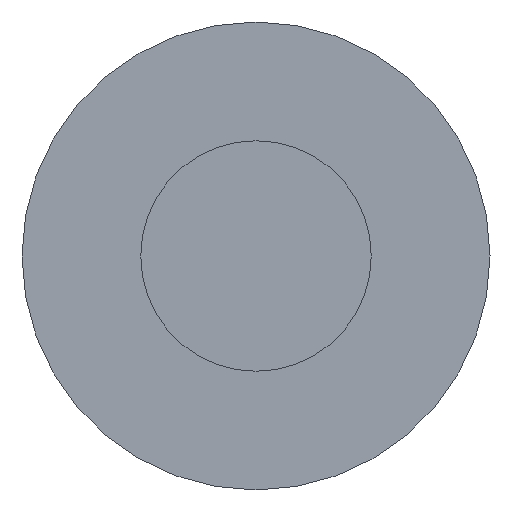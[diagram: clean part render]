
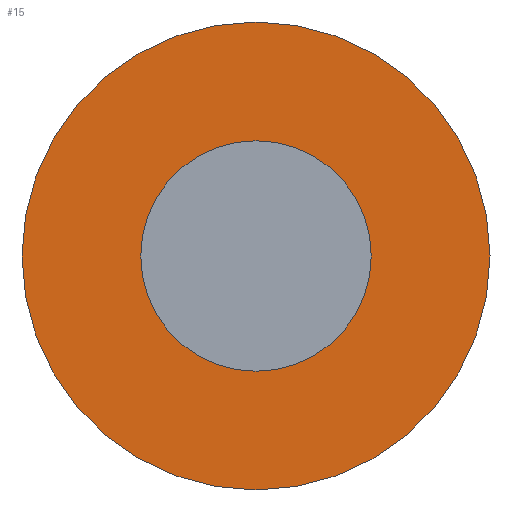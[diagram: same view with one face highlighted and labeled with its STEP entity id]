
A CAD part, front view. The second image highlights one B-rep face of the part: STEP entity #15.
In plain terms, the highlighted planar face has unit normal (0, -1, 0).
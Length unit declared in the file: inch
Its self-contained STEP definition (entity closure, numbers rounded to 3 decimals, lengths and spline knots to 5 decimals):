
#15 = ADVANCED_FACE ( 'NONE', ( #433, #436 ), #49, .F. ) ;
#24 = DIRECTION ( 'NONE',  ( 0., 0., 1. ) ) ;
#32 = CARTESIAN_POINT ( 'NONE',  ( 0., 0.38, 1.98297 ) ) ;
#49 = PLANE ( 'NONE',  #260 ) ;
#90 = DIRECTION ( 'NONE',  ( 0., 1., 0. ) ) ;
#141 = CARTESIAN_POINT ( 'NONE',  ( 0., 0.38, 1.98297 ) ) ;
#142 = DIRECTION ( 'NONE',  ( 0., 1., 0. ) ) ;
#143 = DIRECTION ( 'NONE',  ( 0., 0., 1. ) ) ;
#151 = CARTESIAN_POINT ( 'NONE',  ( 0., 0.38, 1.98297 ) ) ;
#152 = DIRECTION ( 'NONE',  ( 0., 1., 0. ) ) ;
#153 = DIRECTION ( 'NONE',  ( 0., 0., 1. ) ) ;
#163 = CARTESIAN_POINT ( 'NONE',  ( 0., 0.38, 1.98297 ) ) ;
#164 = DIRECTION ( 'NONE',  ( 0., 1., 0. ) ) ;
#165 = DIRECTION ( 'NONE',  ( 0., 0., 1. ) ) ;
#169 = CARTESIAN_POINT ( 'NONE',  ( 0., 0.38, 1.98297 ) ) ;
#170 = DIRECTION ( 'NONE',  ( 0., 1., 0. ) ) ;
#171 = DIRECTION ( 'NONE',  ( 0., 0., 1. ) ) ;
#184 = CARTESIAN_POINT ( 'NONE',  ( 0., 0.38, 1.94847 ) ) ;
#189 = CARTESIAN_POINT ( 'NONE',  ( 0., 0.38, 2.01747 ) ) ;
#194 = CARTESIAN_POINT ( 'NONE',  ( 0., 0.38, 2.05301 ) ) ;
#198 = CARTESIAN_POINT ( 'NONE',  ( 0., 0.38, 1.91293 ) ) ;
#237 = AXIS2_PLACEMENT_3D ( 'NONE', #169, #170, #171 ) ;
#239 = AXIS2_PLACEMENT_3D ( 'NONE', #163, #164, #165 ) ;
#243 = AXIS2_PLACEMENT_3D ( 'NONE', #151, #152, #153 ) ;
#245 = AXIS2_PLACEMENT_3D ( 'NONE', #141, #142, #143 ) ;
#260 = AXIS2_PLACEMENT_3D ( 'NONE', #32, #90, #24 ) ;
#286 = EDGE_CURVE ( 'NONE', #334, #331, #458, .T. ) ;
#290 = EDGE_CURVE ( 'NONE', #330, #329, #466, .T. ) ;
#295 = EDGE_CURVE ( 'NONE', #329, #330, #473, .T. ) ;
#297 = EDGE_CURVE ( 'NONE', #331, #334, #475, .T. ) ;
#311 = EDGE_LOOP ( 'NONE', ( #368, #367 ) ) ;
#327 = EDGE_LOOP ( 'NONE', ( #370, #369 ) ) ;
#329 = VERTEX_POINT ( 'NONE', #184 ) ;
#330 = VERTEX_POINT ( 'NONE', #189 ) ;
#331 = VERTEX_POINT ( 'NONE', #198 ) ;
#334 = VERTEX_POINT ( 'NONE', #194 ) ;
#367 = ORIENTED_EDGE ( 'NONE', *, *, #286, .F. ) ;
#368 = ORIENTED_EDGE ( 'NONE', *, *, #297, .F. ) ;
#369 = ORIENTED_EDGE ( 'NONE', *, *, #295, .T. ) ;
#370 = ORIENTED_EDGE ( 'NONE', *, *, #290, .T. ) ;
#433 = FACE_BOUND ( 'NONE', #327, .T. ) ;
#436 = FACE_OUTER_BOUND ( 'NONE', #311, .T. ) ;
#458 = CIRCLE ( 'NONE', #245, 0.07004 ) ;
#466 = CIRCLE ( 'NONE', #243, 0.0345 ) ;
#473 = CIRCLE ( 'NONE', #239, 0.0345 ) ;
#475 = CIRCLE ( 'NONE', #237, 0.07004 ) ;
